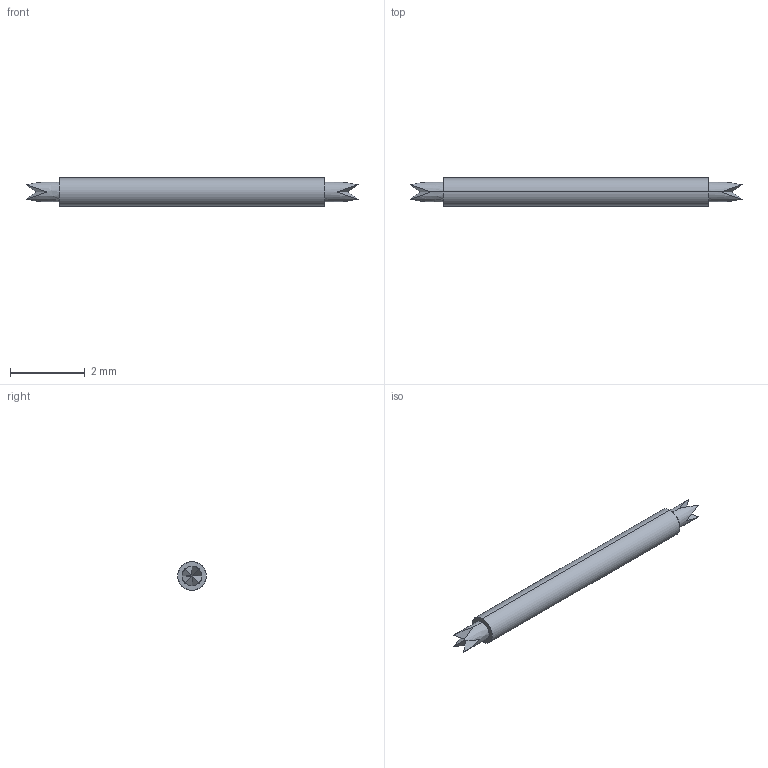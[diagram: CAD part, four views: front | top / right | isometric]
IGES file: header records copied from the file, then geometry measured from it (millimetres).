
Start section: SolidWorks IGES file using analytic representation for surfaces
Global section: file name: Z:\probe solid model mockups\Solidworks models\IGES Files\CSP1-1.27 IGES files\CSP1-1.27LL.IGS; native system: SolidWorks 2006 by SolidWorks Corporation; preprocessor: SolidWorks 2006 by SolidWorks Corporation; author: tsakatani; date: 080108.155506; units: inch
Bounding box: 8.89 x 0.76 x 0.76 mm (x, y, z)
Surface area: 20.8 mm2 (no closed solid volume)
Topology: 0 solids, 0 shells, 24 faces, 180 edges, 180 vertices
Faces by surface type: bspline 18, revolution 6
